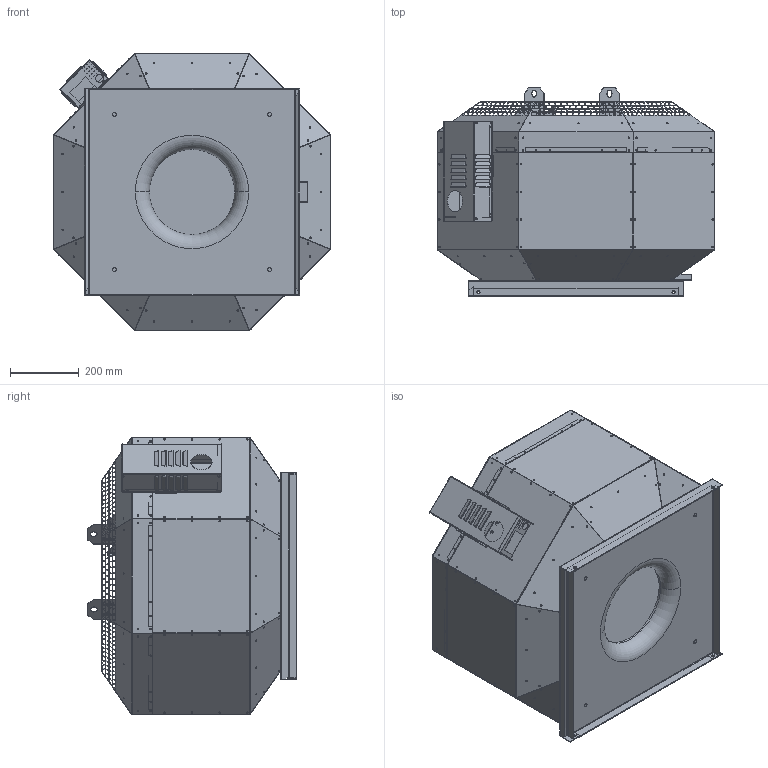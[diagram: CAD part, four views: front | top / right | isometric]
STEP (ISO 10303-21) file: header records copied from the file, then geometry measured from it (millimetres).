
FILE_DESCRIPTION (( 'STEP AP203' ), '1' );
FILE_NAME ('145040-01_DVNI400D430_step.step', '2018-08-08T08:25:14', ( '' ), ( '' ), 'SwSTEP 2.0', 'SolidWorks 2017', '' );
FILE_SCHEMA (( 'CONFIG_CONTROL_DESIGN' ));
Products named in the file (1): 145040-01_DVNI400D430_step
Bounding box: 804 x 604.01 x 804 mm (x, y, z)
Surface area: 4440497.9 mm2 (no closed solid volume)
Topology: 0 solids, 47 shells, 2771 faces, 13245 edges, 9986 vertices
Faces by surface type: plane 2320, cylinder 387, bspline 58, torus 6
Entity records: 149702 total; most frequent: CARTESIAN_POINT 43696, DIRECTION 19802, ORIENTED_EDGE 18697, EDGE_CURVE 13245, LINE 11370, VECTOR 11370, VERTEX_POINT 9986, EDGE_LOOP 4895
